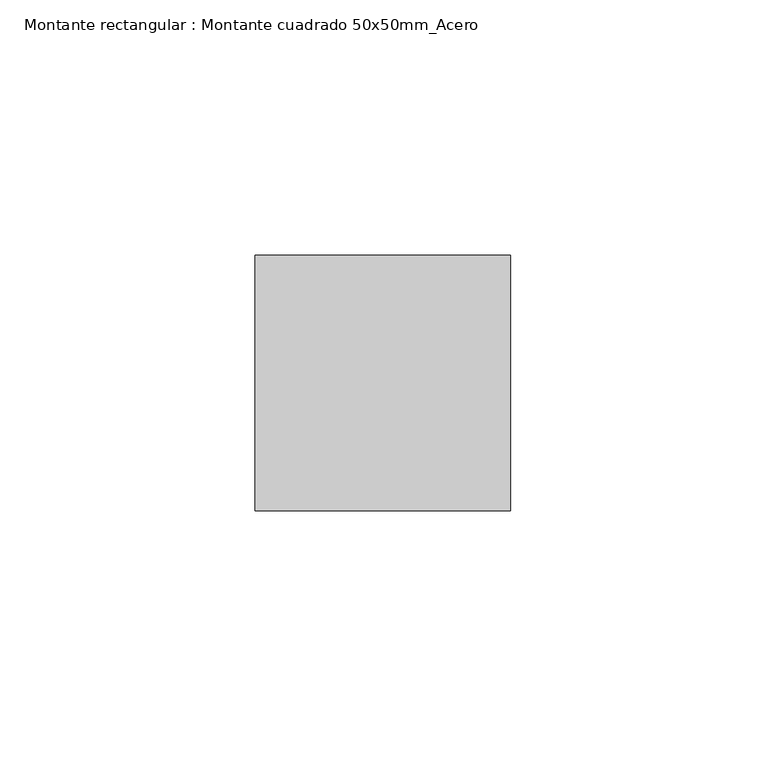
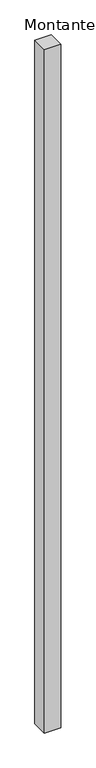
"""IFC4 building model written with IfcOpenShell, lengths in millimetres: member geometry, Montante rectangular : Montante cuadrado 50x50mm_Acero."""

from ifc_helpers import new_model, si_unit, frame, origin, place, context, project, spatial, polyline, outline, extrude, source, transform, mapped, element, save


def montante_rectangular_montante_cuadrado_50x50mm_acero_787adcf8(model_context):
    return source(origin(), model_context, "Body", "SweptSolid", [
        extrude(outline(polyline([(-50.0, 0.0), (-50.0, 50.0), (0.0, 50.0), (0.0, 0.0), (-50.0, 0.0)])), frame((0.0, 0.0, -2187.295385), z_axis=(0.0, 0.0, 1.0), x_axis=(1.0, 0.0, 0.0)), (0.0, 0.0, 1.0), 2187.295385),
    ])


if __name__ == "__main__":
    model = new_model("IFC4")
    model_context = context("Model", 3, world=origin())
    ifc_project = project(units=[si_unit("LENGTHUNIT", "METRE", prefix="MILLI")], contexts=[model_context])
    site = spatial("IfcSite", under=ifc_project)
    building = spatial("IfcBuilding", under=site)
    placement = place(None, origin())
    montante_rectangular_montante_cuadrado_50x50mm_acero_shape = montante_rectangular_montante_cuadrado_50x50mm_acero_787adcf8(model_context)
    element("IfcMember", 1, ObjectType="Montante rectangular : Montante cuadrado 50x50mm_Acero", at=placement, inside=building, context=model_context, shape_type="MappedRepresentation", body=[
        mapped(montante_rectangular_montante_cuadrado_50x50mm_acero_shape, transform((0.0, 0.0, 0.0), x_axis=(1.0, 0.0, 0.0), y_axis=(0.0, 1.0, 0.0), z_axis=(0.0, 0.0, 1.0))),
    ])
    save(model, "model.ifc")
